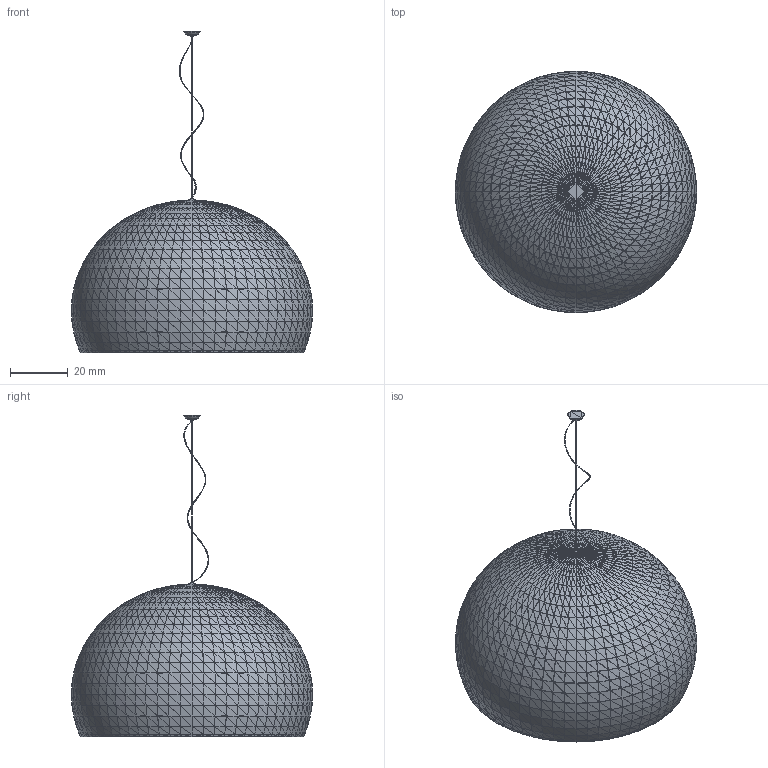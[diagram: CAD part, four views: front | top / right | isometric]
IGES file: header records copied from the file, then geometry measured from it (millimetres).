
Global section: file name: E:\Modelli 3D Kartell_3dd\Prodotti Revisione 1_3dd\ex novo_3dd\9058\Big Fly_3d_Ferruccio Laviani_Kartell.IGS; native system: Rhinoceros ( Mar 10 2014 ); preprocessor: Trout Lake IGES 012 Mar 10 2014; date: 180216.143355; units: millimetre
Bounding box: 83.62 x 83.62 x 111.47 mm (x, y, z)
Surface area: 29318.1 mm2 (no closed solid volume)
Topology: 0 solids, 0 shells, 11918 faces, 35754 edges, 35754 vertices
Faces by surface type: bspline 11918
